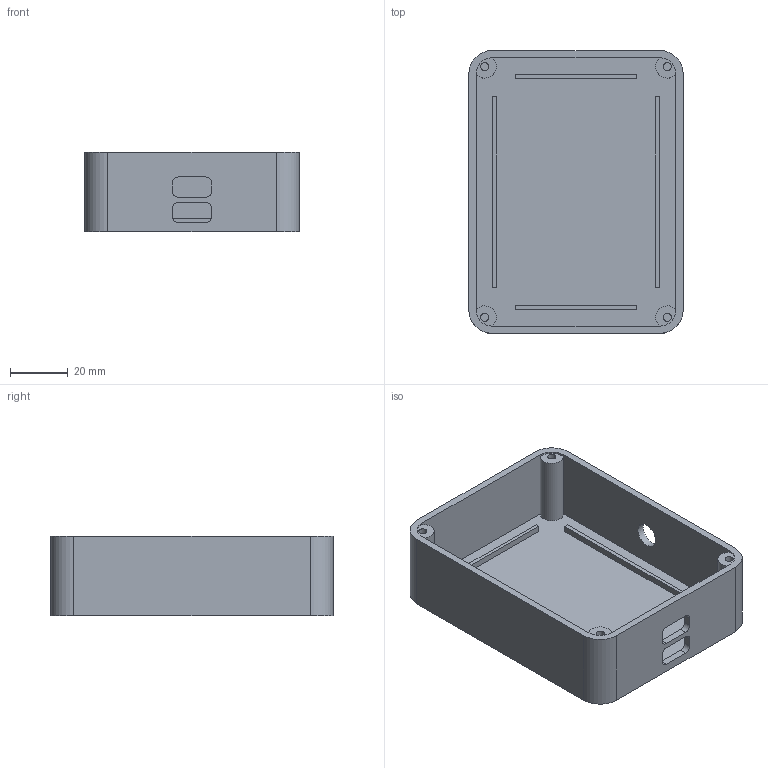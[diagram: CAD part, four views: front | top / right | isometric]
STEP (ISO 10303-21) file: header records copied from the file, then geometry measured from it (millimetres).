
FILE_DESCRIPTION(('Open CASCADE Model'),'2;1');
FILE_NAME('Open CASCADE Shape Model','2026-09-16T17:21:00',('Author'),( 'Open CASCADE'),'Open CASCADE STEP processor 7.9','Open CASCADE 7.9' ,'Unknown');
FILE_SCHEMA(('AUTOMOTIVE_DESIGN { 1 0 10303 214 1 1 1 1 }'));
Length unit declared in the file: millimetre
Products named in the file (1): Open CASCADE STEP translator 7.9 1
Bounding box: 74.21 x 97.9 x 27.4 mm (x, y, z)
Volume: 40507.1 mm3; surface area: 33360.3 mm2
Topology: 1 solids, 1 shells, 72 faces, 183 edges, 122 vertices
Faces by surface type: plane 47, cylinder 25
Full cylindrical faces by diameter (mm): 2.8 x4, 8.5 x1
Entity records: 4536 total; most frequent: CARTESIAN_POINT 876, DIRECTION 663, LINE 377, VECTOR 377, ORIENTED_EDGE 366, PCURVE 366, DEFINITIONAL_REPRESENTATION 366, EDGE_CURVE 183
